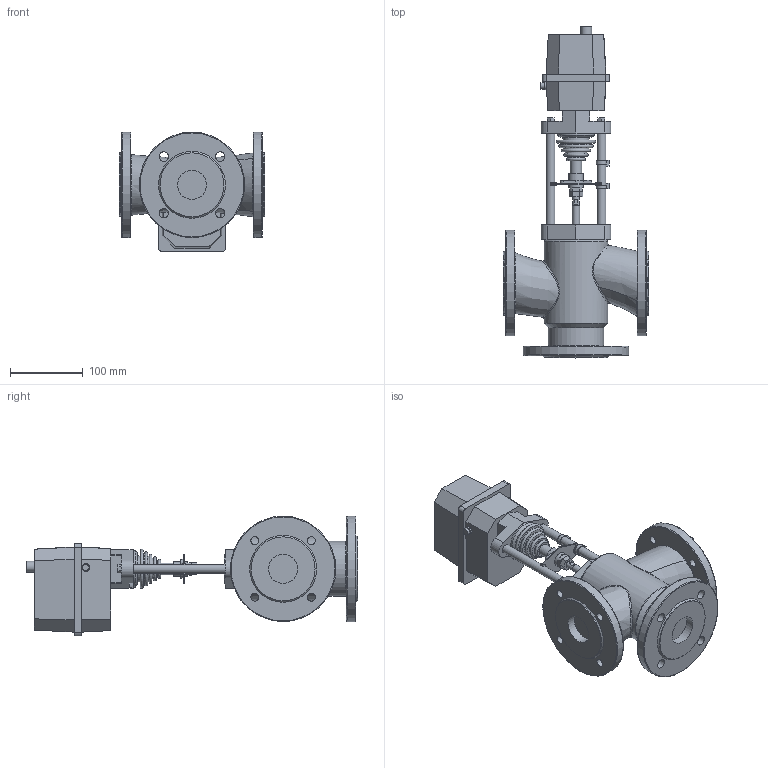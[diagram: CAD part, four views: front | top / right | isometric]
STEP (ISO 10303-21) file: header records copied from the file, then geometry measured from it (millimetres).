
FILE_DESCRIPTION(/* description */ (''),/* implementation_level */ '2;1');
FILE_NAME(/* name */ 'D:\Работа\work by\2017.01.17. клапаны для КПСР 3-хходоввые\Готовые файлы\ST mini\iges\ду 40.stp',/* time_stamp */ '2017-02-19T17:13:33+03:00',/* author */ ('Admin'),/* organization */ ('unknown'),/* preprocessor_version */ 'ST-DEVELOPER v16.1',/* originating_system */ 'Autodesk Inventor 2016',/* authorisation */ '');
FILE_SCHEMA (('AUTOMOTIVE_DESIGN { 1 0 10303 214 3 1 1 }'));
Length unit declared in the file: millimetre
Products named in the file (1): ду 40
Bounding box: 200 x 456.76 x 164.61 mm (x, y, z)
Volume: 3118191.6 mm3; surface area: 277654.3 mm2
Topology: 1 solids, 2 shells, 245 faces, 601 edges, 393 vertices
Faces by surface type: plane 151, cylinder 64, torus 15, bspline 8, cone 7
Full cylindrical faces by diameter (mm): 8.5 x1, 8.89 x1, 9.6 x1, 10 x2, 10.272 x1, 11 x8, 12 x4, 13 x4, 14.958 x1, 16 x1, 20 x2, 22.287 x1, 29.215 x1, 36 x1, 36.144 x1, 40 x4, 43.072 x1, 50 x1, 76 x1, 88 x4, 145 x3
Entity records: 8453 total; most frequent: CARTESIAN_POINT 2846, DIRECTION 1148, ORIENTED_EDGE 1030, EDGE_CURVE 515, AXIS2_PLACEMENT_3D 415, EDGE_LOOP 382, VERTEX_POINT 375, LINE 318
